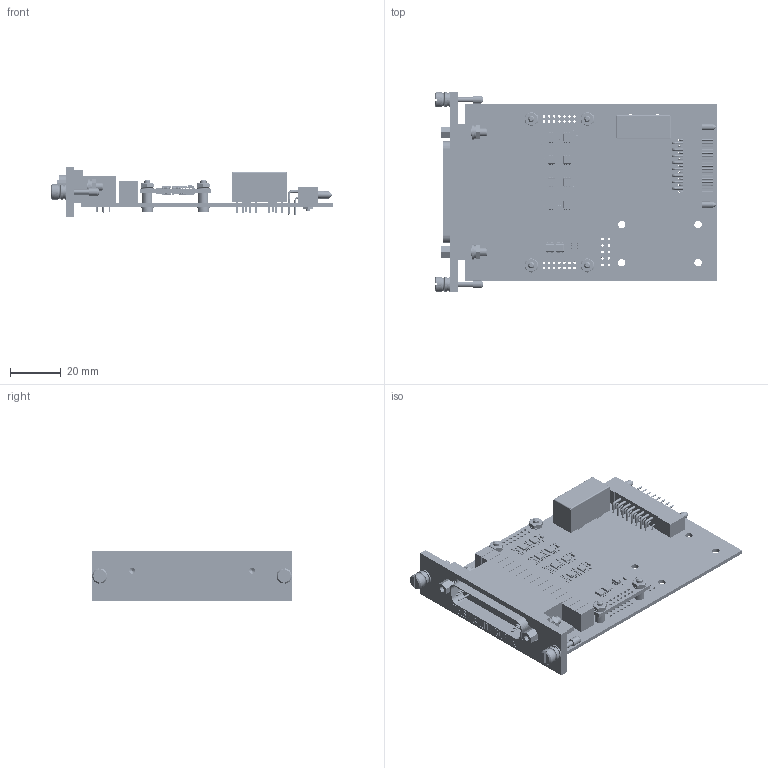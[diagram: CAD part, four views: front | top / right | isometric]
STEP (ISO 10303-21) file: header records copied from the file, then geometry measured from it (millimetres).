
FILE_DESCRIPTION(('STEP AP203'), '1');
FILE_NAME('帎迗.468155.012 沓劌錪 眝3_氈柉307', '', ('UNSPECIFIED'), ('UNSPECIFIED'), 'C3D Converter', 'C3D Toolkit', '');
FILE_SCHEMA(('CONFIG_CONTROL_DESIGN'));
Length unit declared in the file: millimetre
Products named in the file (1): КМНТ.468155.012
Bounding box: 110.89 x 78.5 x 19.6 mm (x, y, z)
Volume: 3424.9 mm3; surface area: 35026.4 mm2
Topology: 117 solids, 118 shells, 16807 faces, 44016 edges, 26687 vertices
Faces by surface type: plane 8146, cylinder 6285, sphere 2288, cone 52, torus 19, bspline 17
Full cylindrical faces by diameter (mm): 0.25 x16, 0.388 x2, 0.6 x43, 0.7 x12, 0.8 x49, 1 x127, 1.1 x7, 1.4 x2, 1.6 x2, 2 x2, 2.362 x2, 2.459 x2, 2.49 x2, 2.5 x4, 2.9 x4, 3 x2, 3.175 x4, 3.2 x4, 3.4 x2, 4 x4, 4.5 x4, 5 x8, 6 x8
Entity records: 798243 total; most frequent: CARTESIAN_POINT 267386, ORIENTED_EDGE 82430, DIRECTION 79579, EDGE_CURVE 41337, AXIS2_PLACEMENT_3D 27210, VERTEX_POINT 26672, LINE 25159, VECTOR 25159
